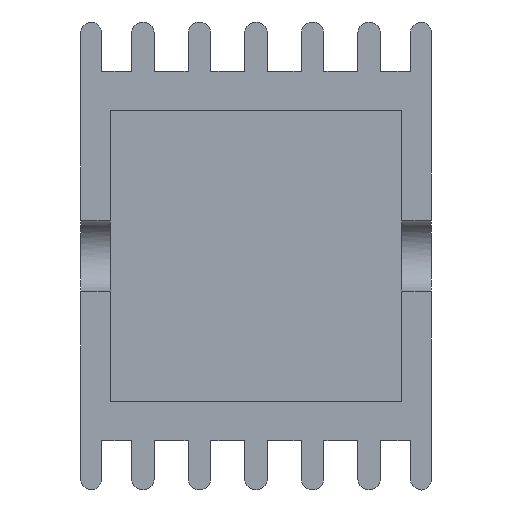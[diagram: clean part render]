
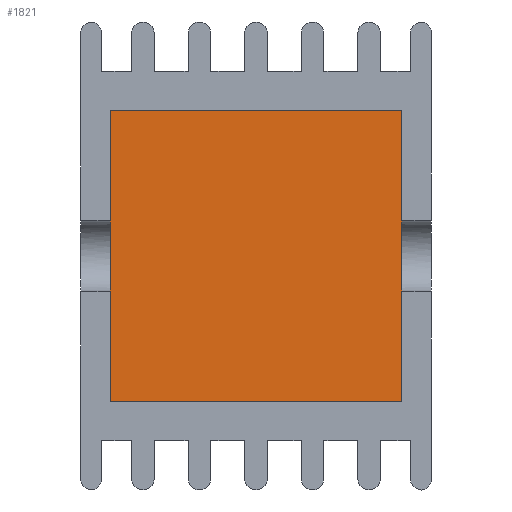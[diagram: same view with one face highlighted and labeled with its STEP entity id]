
A CAD part, left-side view. The second image highlights one B-rep face of the part: STEP entity #1821.
In plain terms, the highlighted planar face has unit normal (-1, 0, 0).
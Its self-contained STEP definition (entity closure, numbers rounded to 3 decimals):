
#49=FACE_OUTER_BOUND($,#144,.T.);
#144=EDGE_LOOP($,(#1145,#1146,#1147,#1148,#1149,#1150,#1151,#1152));
#294=LINE($,#2603,#498);
#295=LINE($,#2607,#499);
#296=LINE($,#2609,#500);
#297=LINE($,#2611,#501);
#298=LINE($,#2613,#502);
#299=LINE($,#2615,#503);
#300=LINE($,#2616,#504);
#301=LINE($,#2617,#505);
#498=VECTOR($,#2100,2.291);
#499=VECTOR($,#2103,22.4);
#500=VECTOR($,#2104,10.054);
#501=VECTOR($,#2105,2.291);
#502=VECTOR($,#2106,10.054);
#503=VECTOR($,#2107,22.4);
#504=VECTOR($,#2108,10.054);
#505=VECTOR($,#2109,10.054);
#708=VERTEX_POINT($,#2600);
#709=VERTEX_POINT($,#2601);
#710=VERTEX_POINT($,#2605);
#711=VERTEX_POINT($,#2606);
#712=VERTEX_POINT($,#2608);
#713=VERTEX_POINT($,#2610);
#714=VERTEX_POINT($,#2612);
#715=VERTEX_POINT($,#2614);
#882=EDGE_CURVE($,#708,#709,#294,.T.);
#883=EDGE_CURVE($,#710,#711,#295,.T.);
#884=EDGE_CURVE($,#712,#710,#296,.T.);
#885=EDGE_CURVE($,#712,#713,#297,.T.);
#886=EDGE_CURVE($,#714,#713,#298,.T.);
#887=EDGE_CURVE($,#715,#714,#299,.T.);
#888=EDGE_CURVE($,#708,#715,#300,.T.);
#889=EDGE_CURVE($,#711,#709,#301,.T.);
#1145=ORIENTED_EDGE($,*,*,#883,.F.);
#1146=ORIENTED_EDGE($,*,*,#884,.F.);
#1147=ORIENTED_EDGE($,*,*,#885,.T.);
#1148=ORIENTED_EDGE($,*,*,#886,.F.);
#1149=ORIENTED_EDGE($,*,*,#887,.F.);
#1150=ORIENTED_EDGE($,*,*,#888,.F.);
#1151=ORIENTED_EDGE($,*,*,#882,.T.);
#1152=ORIENTED_EDGE($,*,*,#889,.F.);
#1654=PLANE($,#1926);
#1821=ADVANCED_FACE($,(#49),#1654,.F.);
#1926=AXIS2_PLACEMENT_3D($,#2604,#2101,#2102);
#2100=DIRECTION($,(0.,0.,1.));
#2101=DIRECTION('center_axis',(1.,0.,0.));
#2102=DIRECTION('ref_axis',(0.,0.,-1.));
#2103=DIRECTION($,(0.,-1.,0.));
#2104=DIRECTION($,(0.,0.,1.));
#2105=DIRECTION($,(0.,0.,-1.));
#2106=DIRECTION($,(0.,0.,1.));
#2107=DIRECTION($,(0.,1.,0.));
#2108=DIRECTION($,(0.,0.,-1.));
#2109=DIRECTION($,(0.,0.,-1.));
#2600=CARTESIAN_POINT('',(-157.312,7.001,25.692));
#2601=CARTESIAN_POINT('',(-157.312,7.001,27.983));
#2603=CARTESIAN_POINT($,(-157.312,7.001,38.037));
#2604=CARTESIAN_POINT('Origin',(-157.312,18.201,26.837));
#2605=CARTESIAN_POINT('',(-157.312,29.401,38.037));
#2606=CARTESIAN_POINT('',(-157.312,7.001,38.037));
#2607=CARTESIAN_POINT($,(-157.312,12.601,38.037));
#2608=CARTESIAN_POINT('',(-157.312,29.401,27.983));
#2609=CARTESIAN_POINT($,(-157.312,29.401,32.437));
#2610=CARTESIAN_POINT('',(-157.312,29.401,25.692));
#2611=CARTESIAN_POINT($,(-157.312,29.401,15.637));
#2612=CARTESIAN_POINT('',(-157.312,29.401,15.637));
#2613=CARTESIAN_POINT($,(-157.312,29.401,32.437));
#2614=CARTESIAN_POINT('',(-157.312,7.001,15.637));
#2615=CARTESIAN_POINT($,(-157.312,23.801,15.637));
#2616=CARTESIAN_POINT($,(-157.312,7.001,21.237));
#2617=CARTESIAN_POINT($,(-157.312,7.001,21.237));
